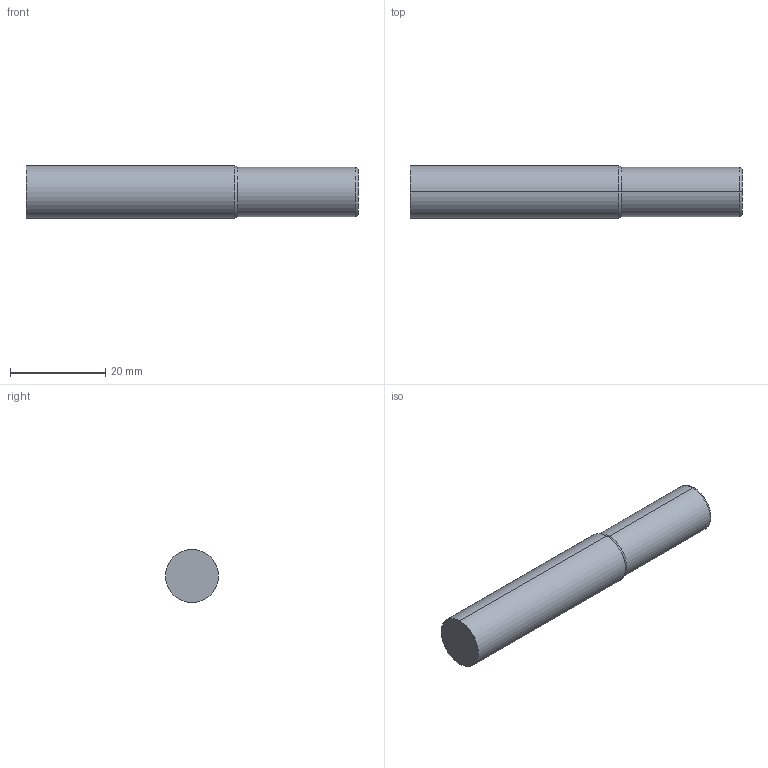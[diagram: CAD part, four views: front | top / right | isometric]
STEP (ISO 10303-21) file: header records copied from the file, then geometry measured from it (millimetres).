
FILE_DESCRIPTION (( 'STEP AP214' ), '1' );
FILE_NAME ('SSI50406-020.STEP', '2025-05-23T15:15:29', ( '' ), ( '' ), 'SwSTEP 2.0', 'SolidWorks 2023', '' );
FILE_SCHEMA (( 'AUTOMOTIVE_DESIGN' ));
Length unit declared in the file: inch
Products named in the file (3): SSI5 Imperial SHANK ONLY_SSI50406-020; SSI5 Imperial LOC ONLY_SSI50406-020; SSI50406-020
Assembly tree (2 placements, depth 2):
  SSI50406-020
    SSI5 Imperial LOC ONLY_SSI50406-020
    SSI5 Imperial SHANK ONLY_SSI50406-020
Bounding box: 69.85 x 11.11 x 11.11 mm (x, y, z)
Volume: 6428.2 mm3; surface area: 2718.4 mm2
Topology: 2 solids, 2 shells, 12 faces, 20 edges, 12 vertices
Faces by surface type: cylinder 4, plane 4, torus 2, cone 2
Entity records: 462 total; most frequent: DIRECTION 68, CARTESIAN_POINT 49, ORIENTED_EDGE 40, AXIS2_PLACEMENT_3D 31, EDGE_CURVE 20, CIRCLE 14, FACE_OUTER_BOUND 12, EDGE_LOOP 12
